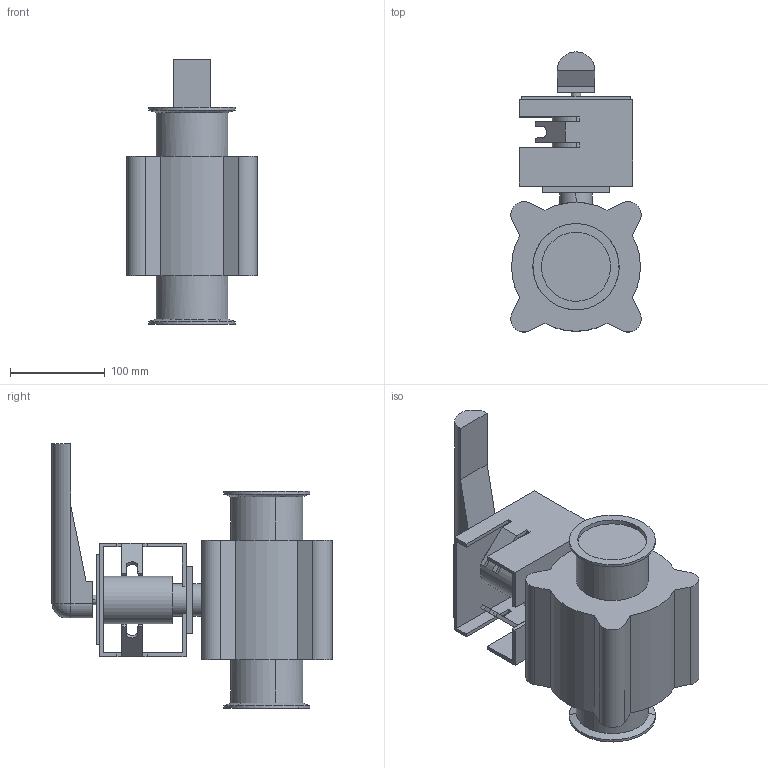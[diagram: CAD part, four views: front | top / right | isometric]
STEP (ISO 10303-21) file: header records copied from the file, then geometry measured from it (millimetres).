
FILE_DESCRIPTION(('Creo Elements/Direct Modeling STEP Export'),'2;1');
FILE_NAME('BLV1-3T-HL-12CL.stp','2019-05-10T 8:25:09',(''),(''),'Creo Elements/Direct Modeling STEP processor for AP214 (Solid Model)','Creo Elements/Direct Modeling 19.0F 14-Feb-2017 (C) Parametric Technology GmbH','');
FILE_SCHEMA(('AUTOMOTIVE_DESIGN { 1 0 10303 214 1 1 1 1 }'));
Length unit declared in the file: millimetre
Products named in the file (2): BLV1-3T-HL-12CL
Assembly tree (1 placements, depth 2):
  BLV1-3T-HL-12CL
    BLV1-3T-HL-12CL
Bounding box: 137.58 x 295.49 x 279.5 mm (x, y, z)
Volume: 3190857.6 mm3; surface area: 272647.4 mm2
Topology: 1 solids, 1 shells, 116 faces, 311 edges, 205 vertices
Faces by surface type: plane 76, cylinder 35, cone 4, torus 1
Entity records: 3502 total; most frequent: CARTESIAN_POINT 638, ORIENTED_EDGE 622, DIRECTION 544, EDGE_CURVE 311, VECTOR 220, LINE 220, VERTEX_POINT 205, AXIS2_PLACEMENT_3D 162
